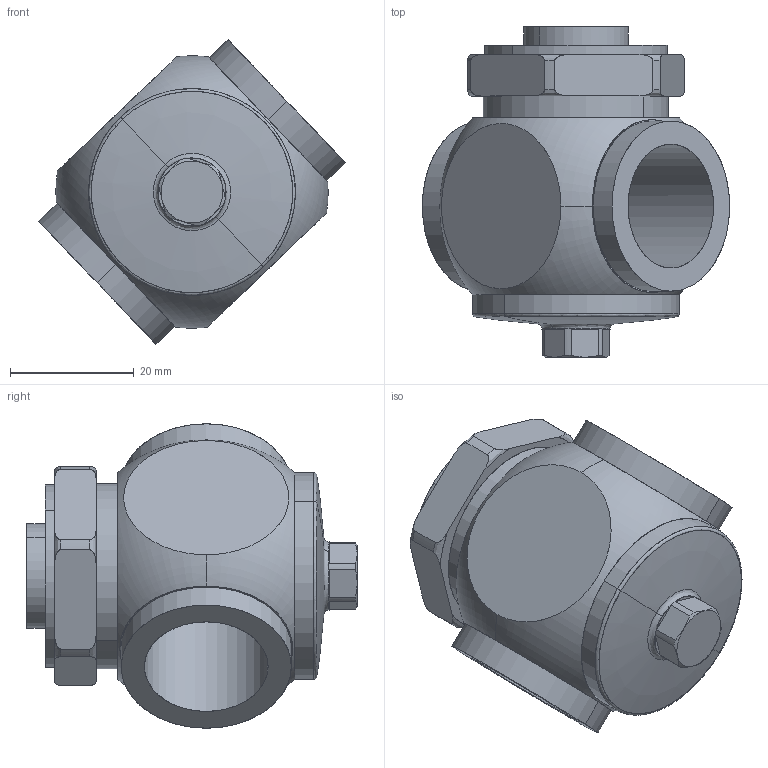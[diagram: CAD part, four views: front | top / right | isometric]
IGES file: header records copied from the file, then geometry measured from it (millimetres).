
Start section: SolidWorks IGES file using analytic representation for surfaces
Global section: file name: C:\Data\SAP_DOC_20200123_IRB390\Lättmodeller_IRB390\Final_4axis\IRB390_15kg_1300_STD_rev0_IGES_J\IRB390_X_1300_STD_LJ1_2_00.IGS; native system: SolidWorks 2018; preprocessor: SolidWorks 2018; author: sestdan2; date: 200204.160319; units: millimetre
Bounding box: 49.65 x 53.4 x 49.17 mm (x, y, z)
Surface area: 10411.3 mm2 (no closed solid volume)
Topology: 0 solids, 0 shells, 79 faces, 1928 edges, 1928 vertices
Faces by surface type: bspline 47, revolution 32
